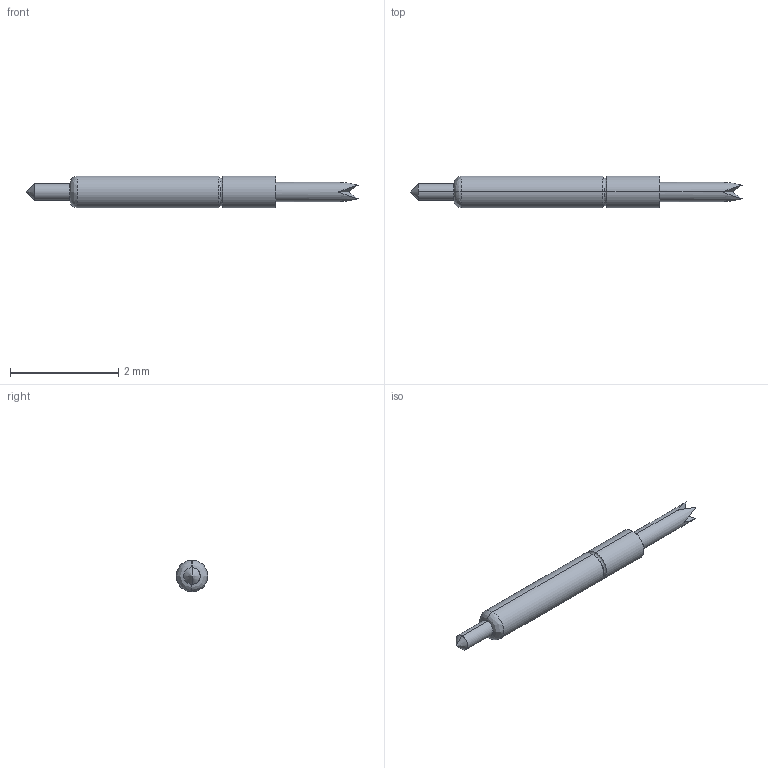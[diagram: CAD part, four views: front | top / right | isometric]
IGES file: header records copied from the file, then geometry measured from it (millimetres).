
Start section: SolidWorks IGES file using analytic representation for surfaces
Global section: file name: Z:\probe solid model mockups\Solidworks models\IGES Files\CSP8-15 IGES files\CSP8-15LB.IGS; native system: SolidWorks 2006 by SolidWorks Corporation; preprocessor: SolidWorks 2006 by SolidWorks Corporation; author: tsakatani; date: 080108.152140; units: inch
Bounding box: 6.15 x 0.58 x 0.58 mm (x, y, z)
Surface area: 9.8 mm2 (no closed solid volume)
Topology: 0 solids, 0 shells, 25 faces, 142 edges, 140 vertices
Faces by surface type: bspline 15, revolution 10
